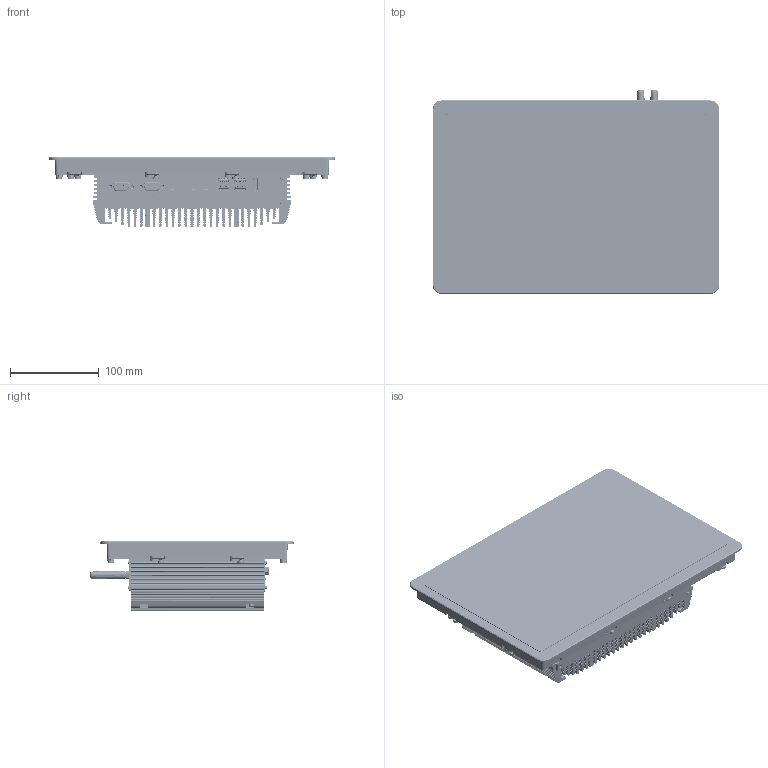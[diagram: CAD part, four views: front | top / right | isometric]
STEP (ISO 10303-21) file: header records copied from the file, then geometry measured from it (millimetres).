
FILE_DESCRIPTION(/* description */ (''),/* implementation_level */ '2;1');
FILE_NAME(/* name */ '11.6总装.stp',/* time_stamp */ '2026-03-05T09:28:19+08:00',/* author */ (''),/* organization */ (''),/* preprocessor_version */ 'ST-DEVELOPER v16',/* originating_system */ 'SIEMENS PLM Software NX 10.0',/* authorisation */ '');
FILE_SCHEMA (('AP203_CONFIGURATION_CONTROLLED_3D_DESIGN_OF_MECHANICAL_PARTS_AND_ASSEMBLIES_MIM_LF { 1 0 10303 403 2 1 2}'));
Products named in the file (1): Admi1FF8C4AFekif
Bounding box: 323.7 x 230.24 x 79 mm (x, y, z)
Volume: 1179830.5 mm3; surface area: 826131.3 mm2
Topology: 203 solids, 218 shells, 12678 faces, 33142 edges, 20983 vertices
Faces by surface type: plane 5514, cylinder 4969, bspline 1395, torus 418, cone 280, sphere 102
Full cylindrical faces by diameter (mm): 4 x12, 4.2 x1, 6 x12, 7 x12
Entity records: 517665 total; most frequent: CARTESIAN_POINT 267555, ORIENTED_EDGE 65630, EDGE_CURVE 32821, DIRECTION 31240, B_SPLINE_CURVE_WITH_KNOTS 24812, VERTEX_POINT 20970, AXIS2_PLACEMENT_3D 14079, EDGE_LOOP 13551
